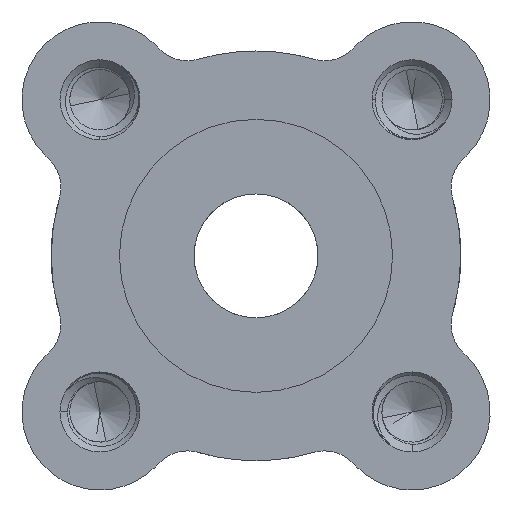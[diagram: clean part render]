
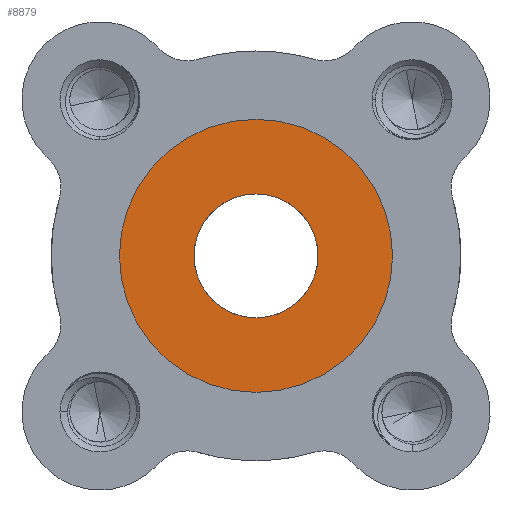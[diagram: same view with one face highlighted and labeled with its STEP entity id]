
A CAD part, front view. The second image highlights one B-rep face of the part: STEP entity #8879.
In plain terms, the highlighted planar face has unit normal (0, -1, 0).
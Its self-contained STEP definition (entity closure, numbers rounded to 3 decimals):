
#1826 = DIRECTION ( 'NONE',  ( 0., 1., 0. ) ) ;
#3175 = ORIENTED_EDGE ( 'NONE', *, *, #49678, .T. ) ;
#3733 = CARTESIAN_POINT ( 'NONE',  ( 0., 0., -3.175 ) ) ;
#8140 = ORIENTED_EDGE ( 'NONE', *, *, #35933, .F. ) ;
#8879 = ADVANCED_FACE ( 'NONE', ( #12750, #27884 ), #36413, .F. ) ;
#9965 = DIRECTION ( 'NONE',  ( 0., 0., 1. ) ) ;
#10357 = CIRCLE ( 'NONE', #42064, 3.175 ) ;
#12750 = FACE_BOUND ( 'NONE', #30437, .T. ) ;
#13417 = CIRCLE ( 'NONE', #19384, 7. ) ;
#14721 = EDGE_LOOP ( 'NONE', ( #8140, #23207 ) ) ;
#19384 = AXIS2_PLACEMENT_3D ( 'NONE', #35958, #28200, #48150 ) ;
#20398 = EDGE_CURVE ( 'NONE', #23883, #33835, #13417, .T. ) ;
#20798 = DIRECTION ( 'NONE',  ( 0., 0., 1. ) ) ;
#21129 = EDGE_CURVE ( 'NONE', #41351, #30016, #10357, .T. ) ;
#21130 = CARTESIAN_POINT ( 'NONE',  ( 0., 0., 0. ) ) ;
#21178 = CIRCLE ( 'NONE', #40949, 7. ) ;
#23207 = ORIENTED_EDGE ( 'NONE', *, *, #20398, .F. ) ;
#23883 = VERTEX_POINT ( 'NONE', #26598 ) ;
#24913 = CARTESIAN_POINT ( 'NONE',  ( 0., 0., 0. ) ) ;
#25007 = DIRECTION ( 'NONE',  ( 0., 1., 0. ) ) ;
#26598 = CARTESIAN_POINT ( 'NONE',  ( 0., 0., 7. ) ) ;
#27130 = DIRECTION ( 'NONE',  ( 0., 0., 1. ) ) ;
#27579 = CARTESIAN_POINT ( 'NONE',  ( 0., 0., 3.175 ) ) ;
#27884 = FACE_OUTER_BOUND ( 'NONE', #14721, .T. ) ;
#28200 = DIRECTION ( 'NONE',  ( 0., 1., 0. ) ) ;
#30016 = VERTEX_POINT ( 'NONE', #27579 ) ;
#30437 = EDGE_LOOP ( 'NONE', ( #3175, #42516 ) ) ;
#31951 = AXIS2_PLACEMENT_3D ( 'NONE', #21130, #25007, #20798 ) ;
#32932 = CIRCLE ( 'NONE', #31951, 3.175 ) ;
#33135 = CARTESIAN_POINT ( 'NONE',  ( 0., 0., 0. ) ) ;
#33835 = VERTEX_POINT ( 'NONE', #42763 ) ;
#35933 = EDGE_CURVE ( 'NONE', #33835, #23883, #21178, .T. ) ;
#35958 = CARTESIAN_POINT ( 'NONE',  ( 0., 0., 0. ) ) ;
#36339 = DIRECTION ( 'NONE',  ( 0., 1., 0. ) ) ;
#36413 = PLANE ( 'NONE',  #41172 ) ;
#38628 = CARTESIAN_POINT ( 'NONE',  ( 0., 0., 0. ) ) ;
#40949 = AXIS2_PLACEMENT_3D ( 'NONE', #33135, #36339, #9965 ) ;
#41172 = AXIS2_PLACEMENT_3D ( 'NONE', #24913, #1826, #44045 ) ;
#41351 = VERTEX_POINT ( 'NONE', #3733 ) ;
#42064 = AXIS2_PLACEMENT_3D ( 'NONE', #38628, #42510, #27130 ) ;
#42510 = DIRECTION ( 'NONE',  ( 0., 1., 0. ) ) ;
#42516 = ORIENTED_EDGE ( 'NONE', *, *, #21129, .T. ) ;
#42763 = CARTESIAN_POINT ( 'NONE',  ( 0., 0., -7. ) ) ;
#44045 = DIRECTION ( 'NONE',  ( 0., 0., 1. ) ) ;
#48150 = DIRECTION ( 'NONE',  ( 0., 0., 1. ) ) ;
#49678 = EDGE_CURVE ( 'NONE', #30016, #41351, #32932, .T. ) ;
